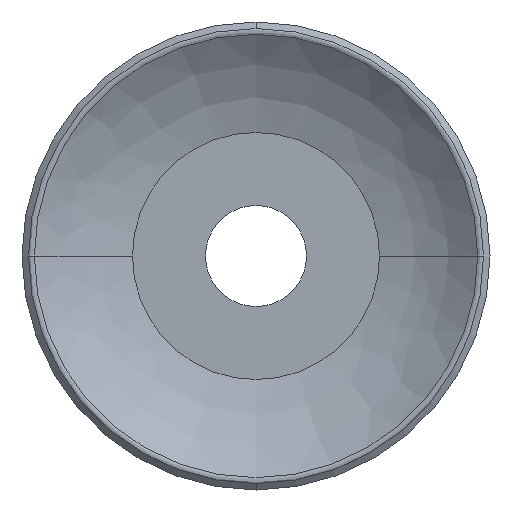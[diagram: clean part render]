
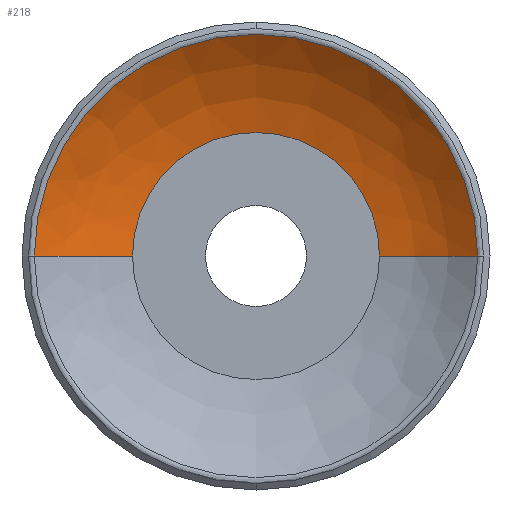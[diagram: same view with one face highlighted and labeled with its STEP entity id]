
A CAD part, front view. The second image highlights one B-rep face of the part: STEP entity #218.
In plain terms, the highlighted free-form (B-spline) face has degree [3, 3] with [4, 4] control points.
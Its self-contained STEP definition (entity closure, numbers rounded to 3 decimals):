
#1 = CARTESIAN_POINT ( 'NONE',  ( 5.5, -7.8, 0. ) ) ;
#25 = CARTESIAN_POINT ( 'NONE',  ( 7.12, -8.148, 0. ) ) ;
#30 = CARTESIAN_POINT ( 'NONE',  ( -7.12, -8.148, 0. ) ) ;
#42 = VERTEX_POINT ( 'NONE', #466 ) ;
#84 = VERTEX_POINT ( 'NONE', #163 ) ;
#94 = AXIS2_PLACEMENT_3D ( 'NONE', #291, #310, #670 ) ;
#137 = CARTESIAN_POINT ( 'NONE',  ( -5.5, -7.8, 0. ) ) ;
#150 = ORIENTED_EDGE ( 'NONE', *, *, #284, .F. ) ;
#154 = EDGE_CURVE ( 'NONE', #84, #349, #669, .T. ) ;
#163 = CARTESIAN_POINT ( 'NONE',  ( -9.871, -9.952, 0. ) ) ;
#175 = CARTESIAN_POINT ( 'NONE',  ( -7.12, -8.148, 14.241 ) ) ;
#179 = CARTESIAN_POINT ( 'NONE',  ( -8.607, -8.88, 17.214 ) ) ;
#203 = CARTESIAN_POINT ( 'NONE',  ( 7.12, -8.148, 0. ) ) ;
#218 = ADVANCED_FACE ( 'NONE', ( #680 ), #358, .F. ) ;
#220 = CARTESIAN_POINT ( 'NONE',  ( -9.871, -9.952, 0. ) ) ;
#224 = AXIS2_PLACEMENT_3D ( 'NONE', #340, #699, #400 ) ;
#246 = ORIENTED_EDGE ( 'NONE', *, *, #715, .T. ) ;
#272 = CARTESIAN_POINT ( 'NONE',  ( -8.607, -8.88, 0. ) ) ;
#284 = EDGE_CURVE ( 'NONE', #446, #42, #713, .T. ) ;
#291 = CARTESIAN_POINT ( 'NONE',  ( 0., -9.952, 0. ) ) ;
#297 = CARTESIAN_POINT ( 'NONE',  ( 7.12, -8.148, 14.241 ) ) ;
#298 = CIRCLE ( 'NONE', #224, 5.5 ) ;
#310 = DIRECTION ( 'NONE',  ( 0., 1., 0. ) ) ;
#315 = CARTESIAN_POINT ( 'NONE',  ( -9.871, -9.952, 0. ) ) ;
#328 = ORIENTED_EDGE ( 'NONE', *, *, #154, .F. ) ;
#340 = CARTESIAN_POINT ( 'NONE',  ( 0., -7.8, 0. ) ) ;
#349 = VERTEX_POINT ( 'NONE', #387 ) ;
#358 =( BOUNDED_SURFACE ( )  B_SPLINE_SURFACE ( 3, 3, ( 
 ( #137, #378, #606, #617 ),
 ( #30, #175, #297, #25 ),
 ( #601, #179, #501, #612 ),
 ( #315, #728, #564, #675 ) ),
 .UNSPECIFIED., .F., .F., .F. ) 
 B_SPLINE_SURFACE_WITH_KNOTS ( ( 4, 4 ),
 ( 4, 4 ),
 ( 0., 1. ),
 ( 0., 1. ),
 .UNSPECIFIED. ) 
 GEOMETRIC_REPRESENTATION_ITEM ( )  RATIONAL_B_SPLINE_SURFACE ( (
 ( 1., 0.333, 0.333, 1.),
 ( 0.98, 0.327, 0.327, 0.98),
 ( 0.98, 0.327, 0.327, 0.98),
 ( 1., 0.333, 0.333, 1.) ) ) 
 REPRESENTATION_ITEM ( '' )  SURFACE ( )  );
#361 = DIRECTION ( 'NONE',  ( 0., -1., 0. ) ) ;
#378 = CARTESIAN_POINT ( 'NONE',  ( -5.5, -7.8, 11. ) ) ;
#380 = AXIS2_PLACEMENT_3D ( 'NONE', #720, #361, #432 ) ;
#385 =( BOUNDED_CURVE ( )  B_SPLINE_CURVE ( 3, ( #738, #203, #684, #434 ),
 .UNSPECIFIED., .F., .T. ) 
 B_SPLINE_CURVE_WITH_KNOTS ( ( 4, 4 ),
 ( 0., 1. ),
 .UNSPECIFIED. ) 
 CURVE ( )  GEOMETRIC_REPRESENTATION_ITEM ( )  RATIONAL_B_SPLINE_CURVE ( ( 1., 0.98, 0.98, 1. ) ) 
 REPRESENTATION_ITEM ( '' )  );
#387 = CARTESIAN_POINT ( 'NONE',  ( 9.871, -9.952, 0. ) ) ;
#391 = ORIENTED_EDGE ( 'NONE', *, *, #660, .F. ) ;
#393 = CARTESIAN_POINT ( 'NONE',  ( -7.12, -8.148, 0. ) ) ;
#400 = DIRECTION ( 'NONE',  ( 0., 0., -1. ) ) ;
#432 = DIRECTION ( 'NONE',  ( 0., 0., -1. ) ) ;
#434 = CARTESIAN_POINT ( 'NONE',  ( 9.871, -9.952, 0. ) ) ;
#446 = VERTEX_POINT ( 'NONE', #1 ) ;
#466 = CARTESIAN_POINT ( 'NONE',  ( 0., -7.8, 5.5 ) ) ;
#468 = EDGE_CURVE ( 'NONE', #446, #349, #385, .T. ) ;
#477 = VERTEX_POINT ( 'NONE', #729 ) ;
#501 = CARTESIAN_POINT ( 'NONE',  ( 8.607, -8.88, 17.214 ) ) ;
#524 = CARTESIAN_POINT ( 'NONE',  ( -5.5, -7.8, 0. ) ) ;
#564 = CARTESIAN_POINT ( 'NONE',  ( 9.871, -9.952, 19.741 ) ) ;
#582 = ORIENTED_EDGE ( 'NONE', *, *, #468, .T. ) ;
#601 = CARTESIAN_POINT ( 'NONE',  ( -8.607, -8.88, 0. ) ) ;
#606 = CARTESIAN_POINT ( 'NONE',  ( 5.5, -7.8, 11. ) ) ;
#612 = CARTESIAN_POINT ( 'NONE',  ( 8.607, -8.88, 0. ) ) ;
#617 = CARTESIAN_POINT ( 'NONE',  ( 5.5, -7.8, 0. ) ) ;
#660 = EDGE_CURVE ( 'NONE', #42, #477, #298, .T. ) ;
#669 = CIRCLE ( 'NONE', #94, 9.871 ) ;
#670 = DIRECTION ( 'NONE',  ( 0., 0., 1. ) ) ;
#675 = CARTESIAN_POINT ( 'NONE',  ( 9.871, -9.952, 0. ) ) ;
#680 = FACE_OUTER_BOUND ( 'NONE', #743, .T. ) ;
#683 =( BOUNDED_CURVE ( )  B_SPLINE_CURVE ( 3, ( #220, #272, #393, #524 ),
 .UNSPECIFIED., .F., .T. ) 
 B_SPLINE_CURVE_WITH_KNOTS ( ( 4, 4 ),
 ( 0., 1. ),
 .UNSPECIFIED. ) 
 CURVE ( )  GEOMETRIC_REPRESENTATION_ITEM ( )  RATIONAL_B_SPLINE_CURVE ( ( 1., 0.98, 0.98, 1. ) ) 
 REPRESENTATION_ITEM ( '' )  );
#684 = CARTESIAN_POINT ( 'NONE',  ( 8.607, -8.88, 0. ) ) ;
#699 = DIRECTION ( 'NONE',  ( 0., -1., 0. ) ) ;
#713 = CIRCLE ( 'NONE', #380, 5.5 ) ;
#715 = EDGE_CURVE ( 'NONE', #84, #477, #683, .T. ) ;
#720 = CARTESIAN_POINT ( 'NONE',  ( 0., -7.8, 0. ) ) ;
#728 = CARTESIAN_POINT ( 'NONE',  ( -9.871, -9.952, 19.741 ) ) ;
#729 = CARTESIAN_POINT ( 'NONE',  ( -5.5, -7.8, 0. ) ) ;
#738 = CARTESIAN_POINT ( 'NONE',  ( 5.5, -7.8, 0. ) ) ;
#743 = EDGE_LOOP ( 'NONE', ( #582, #328, #246, #391, #150 ) ) ;
